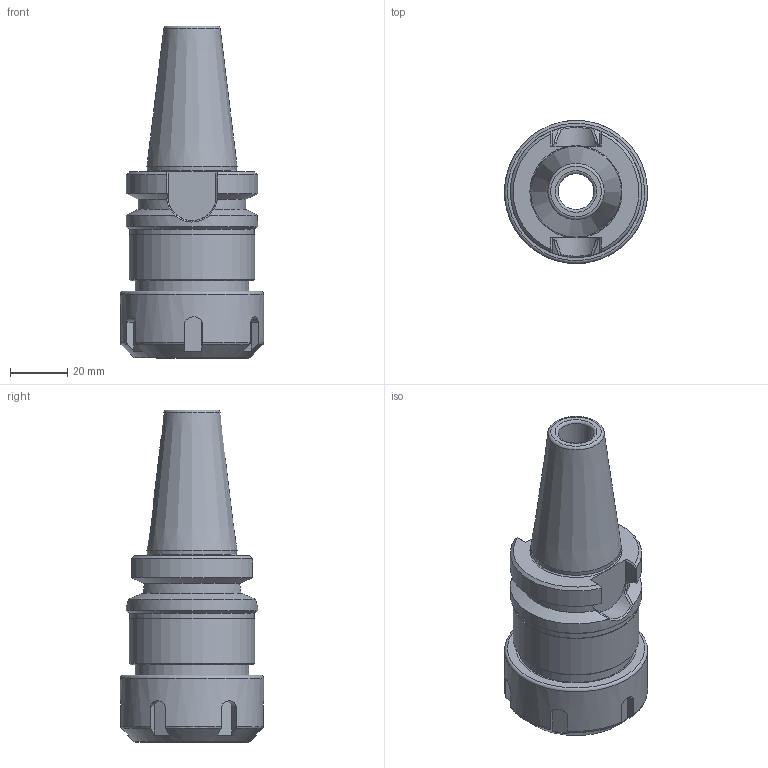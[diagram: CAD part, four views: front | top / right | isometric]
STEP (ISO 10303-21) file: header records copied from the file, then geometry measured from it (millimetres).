
FILE_DESCRIPTION(/* description */ (''),/* implementation_level */ '2;1');
FILE_NAME(/* name */ 'Z:\Проектный отдел\Алена\Патроны\BT30-ER32-70\BT30-ER32-70.stp',/* time_stamp */ '2023-12-21T13:40:39+03:00',/* author */ ('User'),/* organization */ (''),/* preprocessor_version */ 'ST-DEVELOPER v18',/* originating_system */ 'Autodesk Inventor 2020',/* authorisation */ '');
FILE_SCHEMA (('AUTOMOTIVE_DESIGN { 1 0 10303 214 3 1 1 }'));
Length unit declared in the file: millimetre
Products named in the file (3): BT30-ER32-70; BT30-ER32-70_1; Крышка
Assembly tree (2 placements, depth 2):
  BT30-ER32-70
    BT30-ER32-70_1
    Крышка
Bounding box: 49.99 x 50 x 116 mm (x, y, z)
Volume: 87888.8 mm3; surface area: 29280 mm2
Topology: 2 solids, 2 shells, 127 faces, 378 edges, 260 vertices
Faces by surface type: plane 55, bspline 22, cylinder 21, cone 15, torus 14
Full cylindrical faces by diameter (mm): 12.5 x1, 17.5 x1, 21.5 x1, 39.6 x1, 40 x1, 43.5 x1, 44 x1, 45.9 x1, 50 x1
Entity records: 5062 total; most frequent: CARTESIAN_POINT 1748, ORIENTED_EDGE 756, DIRECTION 574, EDGE_CURVE 378, VERTEX_POINT 260, AXIS2_PLACEMENT_3D 230, EDGE_LOOP 136, B_SPLINE_CURVE_WITH_KNOTS 128
